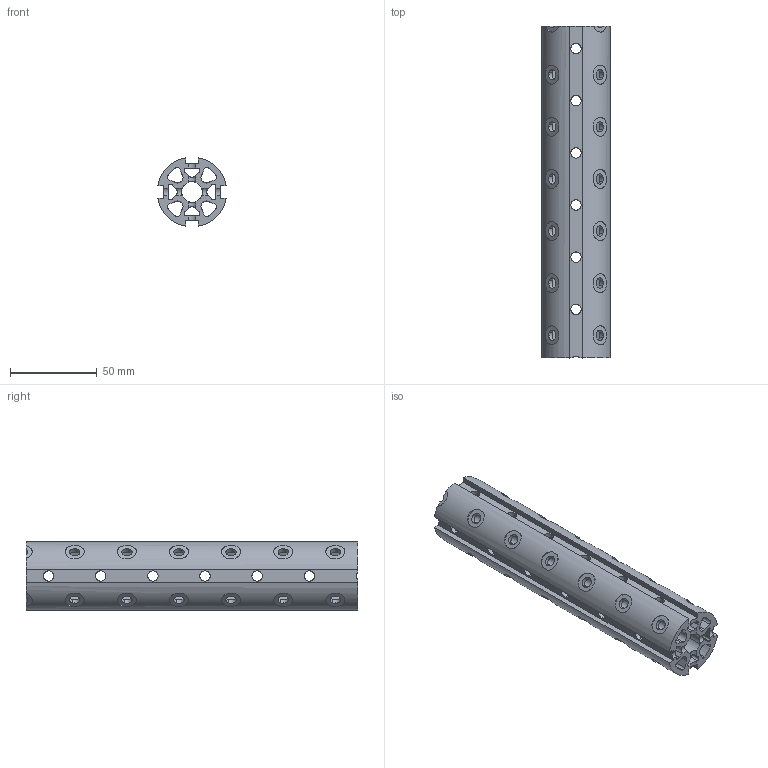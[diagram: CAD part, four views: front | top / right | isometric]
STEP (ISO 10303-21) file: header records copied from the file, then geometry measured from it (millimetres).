
FILE_DESCRIPTION(('STEP AP214'),'1');
FILE_NAME('EGT005_xxxixxx_AL_PROFIL_40.CATPart.stp','2015-09-14T13:03:45',('3D-Tool'),(' '),'Spatial InterOp 3D',' ',' ');
FILE_SCHEMA(('automotive_design'));
Length unit declared in the file: millimetre
Products named in the file (1): EGT005_xxxixxx_AL_PROFIL_40|EGT005_AL_PROFIL_40|Split.2
Bounding box: 39.31 x 191 x 39.31 mm (x, y, z)
Volume: 119723.9 mm3; surface area: 77081.7 mm2
Topology: 1 solids, 1 shells, 734 faces, 2370 edges, 1580 vertices
Faces by surface type: cylinder 658, plane 76
Entity records: 44711 total; most frequent: CARTESIAN_POINT 18955, ORIENTED_EDGE 4740, DIRECTION 3408, EDGE_CURVE 2370, VERTEX_POINT 1580, AXIS2_PLACEMENT_3D 1261, B_SPLINE_CURVE_WITH_KNOTS 958, EDGE_LOOP 886
